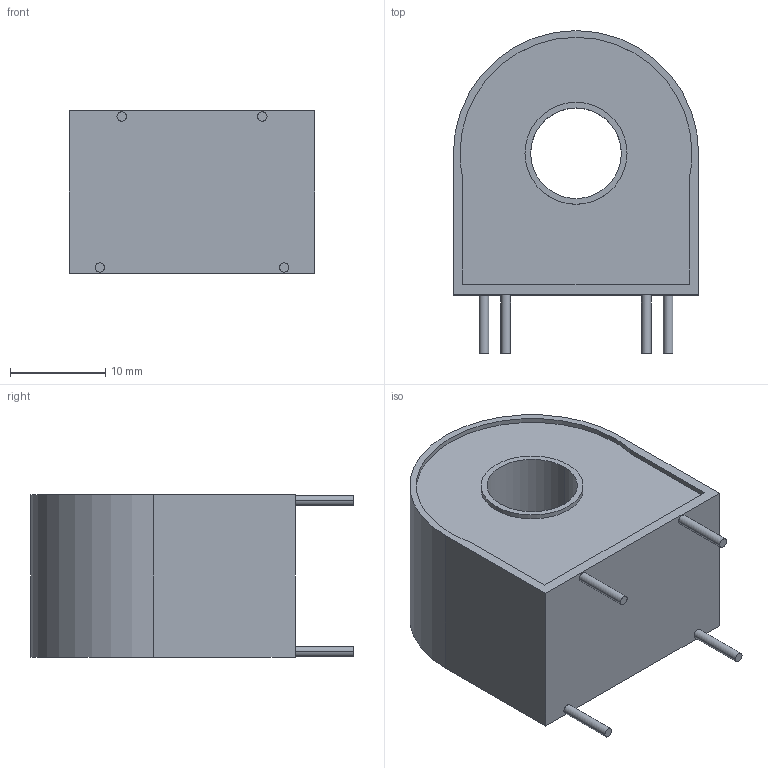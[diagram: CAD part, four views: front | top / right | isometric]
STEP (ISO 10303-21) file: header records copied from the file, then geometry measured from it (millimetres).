
FILE_DESCRIPTION (( 'STEP AP214' ), '1' );
FILE_NAME ('CT-1002-153.STEP', '2020-08-06T20:58:20', ( '' ), ( '' ), 'SwSTEP 2.0', 'SolidWorks 2015', '' );
FILE_SCHEMA (( 'AUTOMOTIVE_DESIGN' ));
Length unit declared in the file: millimetre
Products named in the file (1): CT-1002-153
Bounding box: 25.75 x 33.85 x 17.05 mm (x, y, z)
Volume: 9543.4 mm3; surface area: 3428.3 mm2
Topology: 1 solids, 1 shells, 30 faces, 66 edges, 44 vertices
Faces by surface type: cylinder 16, plane 14
Entity records: 1111 total; most frequent: DIRECTION 160, CARTESIAN_POINT 141, ORIENTED_EDGE 132, EDGE_CURVE 66, AXIS2_PLACEMENT_3D 63, VERTEX_POINT 44, EDGE_LOOP 38, VECTOR 34
